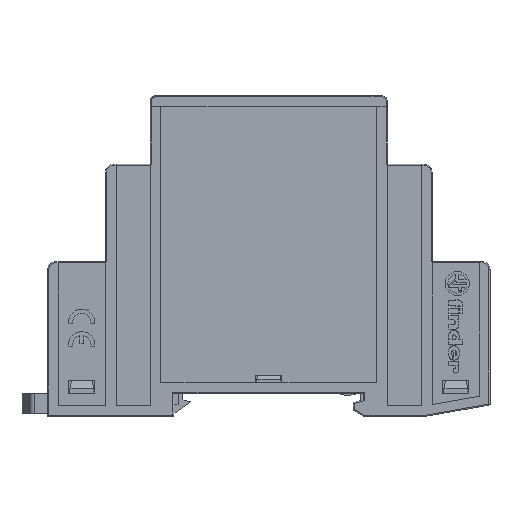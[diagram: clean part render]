
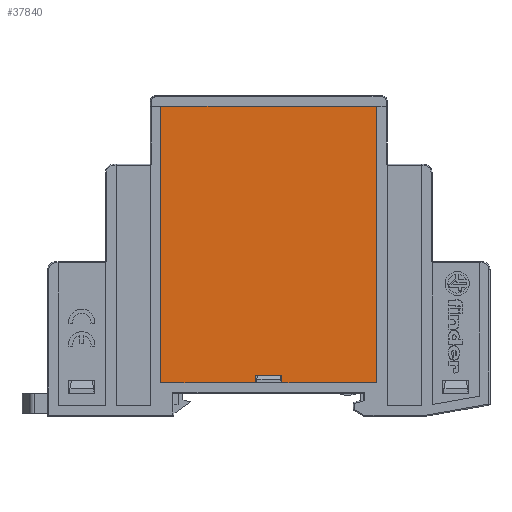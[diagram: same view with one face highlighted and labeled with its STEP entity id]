
A CAD part, left-side view. The second image highlights one B-rep face of the part: STEP entity #37840.
In plain terms, the highlighted planar face has unit normal (-1, 0, 0).
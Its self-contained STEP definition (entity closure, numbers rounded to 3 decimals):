
#3452=LINE('',#65146,#8777);
#3600=LINE('',#65578,#8925);
#3621=LINE('',#65616,#8946);
#3880=LINE('',#66374,#9205);
#3881=LINE('',#66376,#9206);
#3882=LINE('',#66378,#9207);
#3883=LINE('',#66380,#9208);
#3884=LINE('',#66382,#9209);
#8777=VECTOR('',#51324,1000.);
#8925=VECTOR('',#51560,1000.);
#8946=VECTOR('',#51585,1000.);
#9205=VECTOR('',#52108,1000.);
#9206=VECTOR('',#52109,1000.);
#9207=VECTOR('',#52110,1000.);
#9208=VECTOR('',#52111,1000.);
#9209=VECTOR('',#52112,1000.);
#12240=PLANE('',#45060);
#18969=ORIENTED_EDGE('',*,*,#26288,.F.);
#18970=ORIENTED_EDGE('',*,*,#26474,.F.);
#18971=ORIENTED_EDGE('',*,*,#26770,.T.);
#18972=ORIENTED_EDGE('',*,*,#26771,.F.);
#18973=ORIENTED_EDGE('',*,*,#26772,.T.);
#18974=ORIENTED_EDGE('',*,*,#26773,.T.);
#18975=ORIENTED_EDGE('',*,*,#26774,.T.);
#18976=ORIENTED_EDGE('',*,*,#26453,.T.);
#26288=EDGE_CURVE('',#31369,#31370,#3452,.T.);
#26453=EDGE_CURVE('',#31505,#31370,#3600,.T.);
#26474=EDGE_CURVE('',#31521,#31369,#3621,.T.);
#26770=EDGE_CURVE('',#31521,#31710,#3880,.T.);
#26771=EDGE_CURVE('',#31711,#31710,#3881,.T.);
#26772=EDGE_CURVE('',#31711,#31712,#3882,.T.);
#26773=EDGE_CURVE('',#31712,#31713,#3883,.T.);
#26774=EDGE_CURVE('',#31713,#31505,#3884,.T.);
#31369=VERTEX_POINT('',#65147);
#31370=VERTEX_POINT('',#65148);
#31505=VERTEX_POINT('',#65574);
#31521=VERTEX_POINT('',#65615);
#31710=VERTEX_POINT('',#66375);
#31711=VERTEX_POINT('',#66377);
#31712=VERTEX_POINT('',#66379);
#31713=VERTEX_POINT('',#66381);
#34183=EDGE_LOOP('',(#18969,#18970,#18971,#18972,#18973,#18974,#18975,#18976));
#36018=FACE_BOUND('',#34183,.T.);
#37840=ADVANCED_FACE('',(#36018),#12240,.T.);
#45060=AXIS2_PLACEMENT_3D('',#66373,#52106,#52107);
#51324=DIRECTION('',(0.,1.,0.));
#51560=DIRECTION('',(0.,0.,1.));
#51585=DIRECTION('',(0.,0.,1.));
#52106=DIRECTION('',(-1.,0.,0.));
#52107=DIRECTION('',(0.,0.,1.));
#52108=DIRECTION('',(0.,-1.,0.));
#52109=DIRECTION('',(0.,0.,-1.));
#52110=DIRECTION('',(0.,1.,0.));
#52111=DIRECTION('',(0.,0.,-1.));
#52112=DIRECTION('',(0.,-1.,0.));
#65146=CARTESIAN_POINT('',(-13.795,10.773,-46.501));
#65147=CARTESIAN_POINT('',(-13.795,50.274,-46.501));
#65148=CARTESIAN_POINT('',(-13.795,55.274,-46.501));
#65574=CARTESIAN_POINT('',(-13.795,55.274,-48.001));
#65578=CARTESIAN_POINT('',(-13.795,55.274,-54.302));
#65615=CARTESIAN_POINT('',(-13.795,50.274,-48.001));
#65616=CARTESIAN_POINT('',(-13.795,50.274,-54.302));
#66373=CARTESIAN_POINT('',(-13.795,10.773,-54.302));
#66374=CARTESIAN_POINT('',(-13.795,32.274,-48.001));
#66375=CARTESIAN_POINT('',(-13.795,32.274,-48.001));
#66376=CARTESIAN_POINT('',(-13.795,32.274,4.499));
#66377=CARTESIAN_POINT('',(-13.795,32.274,4.499));
#66378=CARTESIAN_POINT('',(-13.795,79.774,4.499));
#66379=CARTESIAN_POINT('',(-13.795,73.274,4.499));
#66380=CARTESIAN_POINT('',(-13.795,73.274,-54.301));
#66381=CARTESIAN_POINT('',(-13.795,73.274,-48.001));
#66382=CARTESIAN_POINT('',(-13.795,32.274,-48.001));
